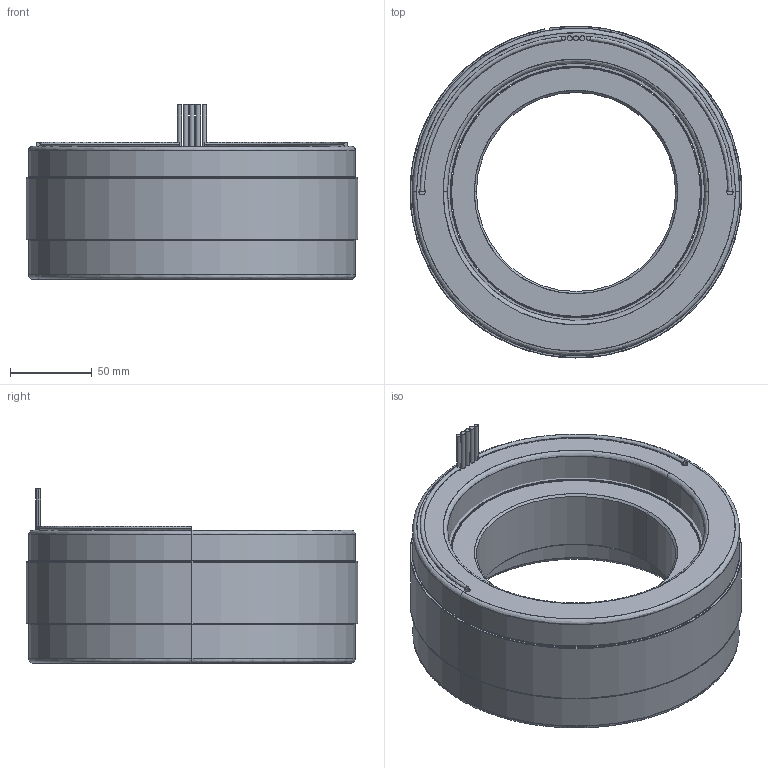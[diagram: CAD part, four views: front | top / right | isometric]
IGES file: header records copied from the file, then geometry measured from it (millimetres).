
Start section: SolidWorks IGES file using analytic representation for surfaces
Global section: file name: Z:\STANDARD STATOR ROTOR SETS\NEW DIRECT DRIVE MOTOR\8 OD 18S16P\6100337-01.IGS; native system: SolidWorks 2016; preprocessor: SolidWorks 2016; author: eng; date: 191023.160556; units: millimetre
Bounding box: 203.2 x 203.19 x 106.68 mm (x, y, z)
Surface area: 340922 mm2 (no closed solid volume)
Topology: 0 solids, 0 shells, 105 faces, 2710 edges, 2710 vertices
Faces by surface type: revolution 63, bspline 42
